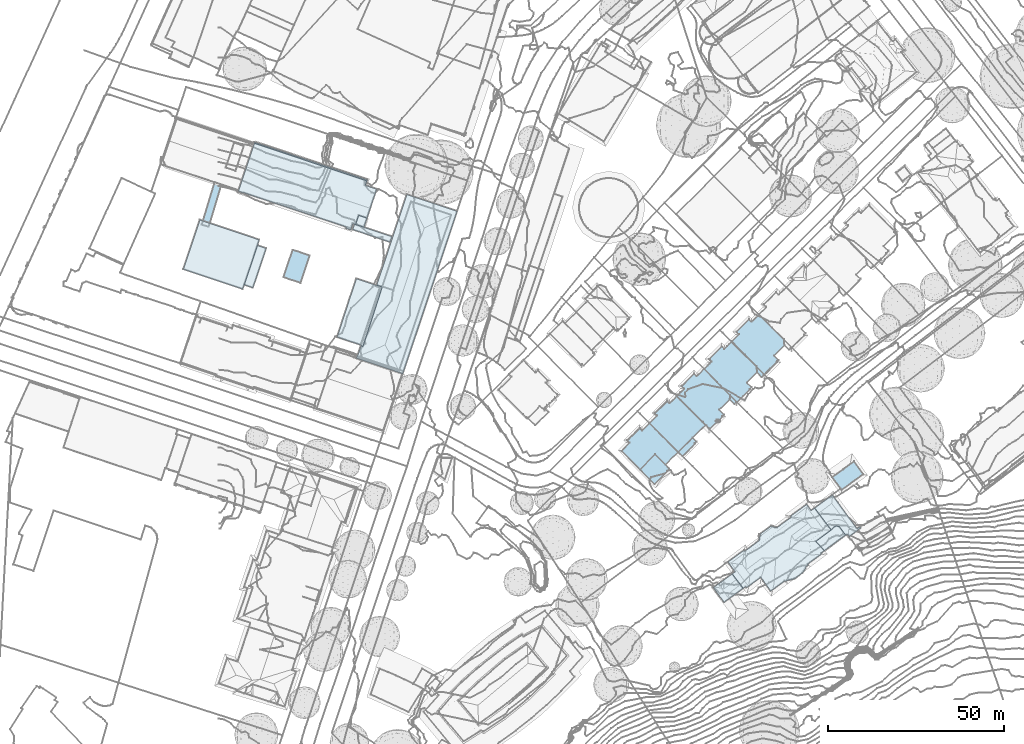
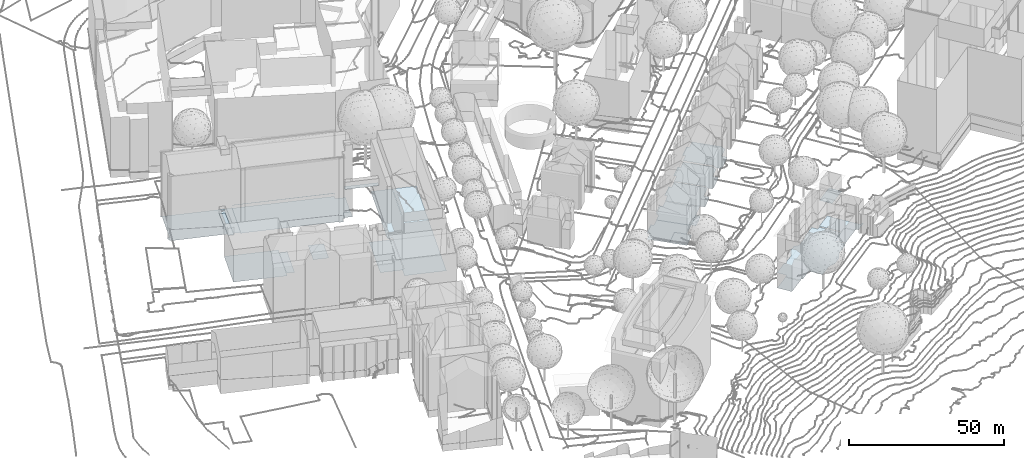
# Not in any storey, part 2 of 494: 12 footings.
"""IFC2X3 model written with IfcOpenShell, lengths in metres."""

from ifc_helpers import new_model, si_unit, frame, origin_with_axes, place, context, subcontext, project, faceted_brep, element, save


model = new_model("IFC2X3")

# Units and contexts
model_context = context("Model", 3, precision=1e-05, world=origin_with_axes())
body_context = subcontext(model_context, "Body", "Model", "MODEL_VIEW")
ifc_project = project(units=[si_unit("AREAUNIT", "SQUARE_METRE"), si_unit("LENGTHUNIT", "METRE")], contexts=[model_context])

# Footings
footing_1_placement = place(None, frame((173.5807320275, 98.186316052, 528.0961), z_axis=(0.0, 0.0, 1.0), x_axis=(1.0, 0.0, 0.0)))
element("IfcFooting", 1, at=footing_1_placement, Name="Floor 0", PredefinedType="STRIP_FOOTING", context=body_context, shape_type="Brep", body=[
    faceted_brep([(2.6099999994, 1.9063000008, 0.0), (8.8049999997, 0.8584000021, -0.0001), (2.5949999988, -3.5537, -0.0001), (4.8889999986, 3.5703000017, 0.0), (6.1530000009, 4.4932000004, 0.0), (5.748999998, -1.373999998, -0.0001), (1.0150000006, 0.7412, 0.0), (0.0, 0.0, 0.0), (2.6530000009, -3.6347000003, -0.0001)], [[[0, 1, 2]], [[3, 4, 1]], [[1, 0, 3]], [[1, 5, 2]], [[0, 2, 6]], [[7, 6, 2]], [[8, 2, 5]]]),
])
footing_2_placement = place(None, frame((160.7467320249, 68.8533160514, 524.6524), z_axis=(0.0, 0.0, 1.0), x_axis=(1.0, 0.0, 0.0)))
element("IfcFooting", 2, at=footing_2_placement, Name="Floor 1", PredefinedType="STRIP_FOOTING", context=body_context, shape_type="Brep", body=[
    faceted_brep([(13.4810000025, 15.2655999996, 0.1969), (13.8940000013, 15.4824000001, 0.1969), (14.825000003, 15.2588, 0.1969), (16.5910000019, 12.8867000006, 0.1969), (12.4710000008, 14.3535000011, 0.1969), (8.1400000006, 11.0918000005, 0.1969), (10.5880000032, 8.4688000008, 0.1969), (-15.1559999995, -4.1854999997, -0.22), (-16.4949999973, -5.1631000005, -0.22), (-20.1969999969, -3.182599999, -0.22), (-17.2149999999, -5.6893999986, -0.22), (-18.2019999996, 0.009800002, -0.22), (-12.5309999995, -2.2675999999, -0.22), (-17.9599999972, -6.2333999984, -0.22), (-18.8389999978, -0.4569999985, -0.22), (-18.432, -0.1581999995, -0.22), (-21.0489999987, -2.0194999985, -0.22), (-15.6519999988, 1.8780000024, -0.22), (-17.981999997, 0.1709000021, -0.22), (-12.0789999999, 8.3399000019, -0.068), (-14.867999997, 2.4521999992, -0.068), (-16.9019999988, 5.2382999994, -0.068), (-12.2789999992, 8.6132999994, -0.068), (-8.0589999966, 11.2774000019, -0.068), (-7.9549999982, 12.2197000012, -0.068), (-7.9149999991, 12.2481000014, -0.068), (-7.8889999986, 12.0234999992, -0.068), (-7.9919999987, 12.3535000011, -0.068), (-7.5029999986, 12.7217000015, -0.068), (-3.6639999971, 15.1104000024, -0.068), (-7.875, 11.8164000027, -0.068), (-8.0029999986, 11.4268000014, -0.068), (-8.0879999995, 11.317400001, -0.068), (-7.8959999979, 11.6797000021, -0.068), (-3.4719999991, 15.0342000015, -0.068), (-7.9389999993, 11.5489000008, -0.068), (-3.3369999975, 15.0117000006, -0.068), (-3.1989999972, 15.0127000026, -0.068), (-2.9029999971, 15.0430000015, -0.068), (-15.6519999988, 1.8780000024, -0.068), (-12.5299999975, -2.2675999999, -0.068), (-11.6019999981, -2.1092999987, -0.068), (-11.8499999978, -1.7705000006, -0.068), (-11.0119999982, -1.6787, -0.068), (-7.5319999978, 0.8632999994, -0.068), (-10.9069999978, -1.6024999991, -0.068), (-6.0219999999, -1.1981999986, -0.068), (-4.1559999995, -2.6512999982, -0.068), (-4.6849999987, -3.0381000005, -0.068), (6.8060000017, 19.9081999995, -0.068), (5.7530000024, 4.5976999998, -0.068), (-0.6710000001, -0.1053999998, -0.068), (-1.8509999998, -0.9677000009, -0.068), (0.0340000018, 0.0234999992, -0.068), (-0.4979999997, -0.3418000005, -0.068), (-7.4729999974, 0.7959000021, -0.068), (8.1400000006, 11.0918000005, -0.068), (1.0109999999, 0.1504000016, -0.068), (0.5250000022, 0.067400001, -0.068), (5.2080000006, 3.4942000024, -0.068), (1.4870000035, 0.2754000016, -0.068), (1.4650000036, 0.2675999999, -0.068), (4.9700000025, 3.0362000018, -0.068), (5.4050000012, 3.9717000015, -0.068), (-4.2929999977, 15.2754000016, -0.068), (-4.5849999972, 15.4717000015, -0.068), (-4.4869999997, 15.5419999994, -0.068), (-4.2719999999, 15.2910000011, -0.068), (-4.2079999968, 15.2050999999, -0.068), (-3.8699999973, 15.2030999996, -0.068), (-3.9909999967, 15.3682000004, -0.068), (-3.8299999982, 15.2324000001, -0.068), (0.9130000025, 18.2558999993, -0.068), (5.5450000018, 21.6367000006, -0.068), (1.1150000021, 17.9785000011, -0.068), (-3.0629999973, 15.0371000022, -0.068), (-2.9339999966, 15.0850000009, -0.068), (5.9300000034, 4.3544999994, -0.068), (1.9539999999, 0.4356000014, -0.068), (4.3800000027, 2.1933999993, -0.068), (2.1630000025, 0.5274000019, -0.068), (4.694000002, 2.6006000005, -0.068), (0.9360000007, 17.8476999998, -0.068), (7.762000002, 20.6064999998, -0.068), (12.4710000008, 14.3535000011, -0.068), (9.6160000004, 7.7530000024, -0.068), (9.7750000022, 7.5351999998, -0.068), (10.5880000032, 8.4688000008, -0.068), (-7.8029999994, 13.1220999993, -0.068), (14.4370000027, 22.1143000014, 0.3329), (10.9910000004, 16.3252000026, 0.3329), (8.9000000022, 19.0967000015, 0.3329), (7.762000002, 20.6064999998, 0.3329), (12.9020000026, 24.2178000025, 0.3329), (12.8330000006, 24.3115000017, 0.3329), (13.8940000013, 15.4824000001, 0.3329), (12.4710000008, 14.3535000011, 0.3329), (13.4810000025, 15.2655999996, 0.3329), (16.813000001, 13.0498000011, 0.3329), (16.5910000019, 12.8867000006, 0.3329), (14.825000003, 15.2588, 0.3329), (19.2700000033, 15.4932000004, 0.3329), (19.5520000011, 15.1084000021, 0.3329), (17.2290000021, 13.0381000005, 0.3329), (20.7070000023, 15.2646999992, 0.3329), (20.9470000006, 14.9453000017, 0.3329), (20.2410000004, 15.0205000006, 0.3329), (19.7880000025, 14.7842000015, 0.3329), (16.9630000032, 12.8438000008, 0.3329), (17.6490000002, 12.4600000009, 0.3329), (17.2780000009, 12.9706999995, 0.3329)], [[[0, 1, 2]], [[2, 3, 4]], [[5, 4, 6]], [[2, 4, 0]], [[3, 6, 4]], [[7, 8, 9]], [[9, 8, 10]], [[7, 11, 12]], [[13, 9, 10]], [[14, 15, 9]], [[9, 16, 14]], [[17, 12, 18]], [[11, 18, 12]], [[15, 11, 7]], [[15, 7, 9]], [[19, 20, 21]], [[22, 19, 21]], [[19, 23, 20]], [[24, 25, 26]], [[27, 28, 25]], [[28, 26, 25]], [[26, 29, 30]], [[31, 23, 32]], [[33, 30, 34]], [[35, 33, 36]], [[35, 23, 31]], [[35, 37, 23]], [[38, 20, 23]], [[39, 20, 40]], [[41, 42, 43]], [[42, 40, 20]], [[42, 20, 44]], [[42, 45, 43]], [[46, 47, 48]], [[44, 45, 42]], [[49, 44, 20]], [[46, 50, 51]], [[52, 47, 46]], [[46, 51, 52]], [[51, 53, 54]], [[55, 56, 46]], [[57, 58, 59]], [[60, 61, 57]], [[60, 57, 62]], [[50, 53, 51]], [[53, 63, 58]], [[56, 55, 44]], [[28, 29, 26]], [[64, 28, 65]], [[64, 65, 66]], [[67, 68, 64]], [[68, 28, 64]], [[28, 69, 29]], [[68, 70, 69]], [[29, 69, 71]], [[68, 69, 28]], [[34, 30, 29]], [[33, 34, 36]], [[72, 73, 74]], [[38, 23, 37]], [[37, 75, 38]], [[35, 36, 37]], [[75, 76, 38]], [[59, 58, 63]], [[77, 63, 50]], [[50, 46, 56]], [[63, 53, 50]], [[57, 59, 62]], [[78, 79, 80]], [[81, 79, 78]], [[60, 81, 78]], [[81, 60, 62]], [[49, 20, 38]], [[74, 49, 82]], [[83, 84, 49]], [[74, 73, 49]], [[44, 49, 56]], [[49, 84, 56]], [[50, 85, 86]], [[56, 87, 85]], [[85, 50, 56]], [[82, 49, 38]], [[28, 88, 65]], [[89, 90, 91]], [[91, 92, 89]], [[89, 92, 93]], [[92, 94, 93]], [[89, 95, 90]], [[96, 90, 97]], [[97, 90, 95]], [[98, 99, 100]], [[98, 100, 101]], [[89, 100, 95]], [[89, 101, 100]], [[102, 103, 101]], [[104, 105, 106]], [[105, 107, 106]], [[98, 103, 108]], [[107, 109, 110]], [[110, 103, 107]], [[107, 105, 109]], [[102, 107, 103]], [[101, 103, 98]]]),
])
footing_3_placement = place(None, frame((-17.4142679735, 188.431416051, 525.0686), z_axis=(0.0, 0.0, 1.0), x_axis=(1.0, 0.0, 0.0)))
element("IfcFooting", 3, at=footing_3_placement, Name="Floor 0", PredefinedType="STRIP_FOOTING", context=body_context, shape_type="Brep", body=[
    faceted_brep([(17.3339999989, -7.0936999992, 8.4302), (11.754999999, -18.5126999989, 8.4302), (15.4070000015, -6.4560000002, 8.4302), (13.6959999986, -19.1014999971, 8.4302), (22.2760000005, -8.4432999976, 0.0), (12.7789999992, -5.5868999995, 0.0), (24.4219999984, -2.0252999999, 0.0), (22.0929999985, -8.9891999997, 0.0), (22.1000000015, -8.6708999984, 0.0), (22.0100000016, -9.2381999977, 0.0), (21.9200000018, -9.2088999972, 0.0), (22.0029999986, -8.9608999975, 0.0), (21.7230000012, 6.2393000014, 0.0), (26.5080000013, 4.2090000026, 0.0), (26.7699999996, 4.9922000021, 0.0), (26.6739999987, 4.7041000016, 0.0), (26.6009999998, 5.0479000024, 0.0), (26.4719999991, 4.6592000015, 0.0), (2.512000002, 5.3057000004, 0.0), (1.3909999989, -1.8182999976, 0.0), (0.8969999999, 0.4776000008, 0.0), (0.3359999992, -1.4696999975, 0.0), (0.125, -0.9461999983, 0.0), (1.2199999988, -1.7616999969, 0.0), (0.0370000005, -0.7274999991, 0.0), (0.0, 0.0, 0.0), (0.6290000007, 0.5665000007, 0.0), (4.5980000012, 11.5391000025, 0.0), (4.1920000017, 11.6749000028, 0.0), (4.438000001, 11.9902999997, 0.0), (4.3370000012, 12.1456000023, 0.0), (4.4739999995, 12.0997000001, 0.0), (0.2430000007, 0.6953999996, 0.0)], [[[0, 1, 2]], [[1, 0, 3]], [[4, 5, 6]], [[4, 7, 8]], [[9, 10, 7]], [[7, 11, 8]], [[5, 4, 8]], [[7, 10, 11]], [[6, 12, 13]], [[14, 15, 16]], [[13, 17, 15]], [[16, 15, 17]], [[13, 12, 17]], [[6, 18, 12]], [[5, 19, 20]], [[21, 22, 23]], [[19, 23, 24]], [[20, 19, 24]], [[25, 26, 20]], [[20, 24, 25]], [[23, 22, 24]], [[20, 18, 5]], [[27, 28, 29]], [[12, 18, 27]], [[29, 30, 31]], [[27, 29, 12]], [[26, 25, 32]], [[30, 29, 28]], [[5, 18, 6]]]),
])
footing_4_placement = place(None, frame((-10.9342679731, 157.2918160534, 524.6136), z_axis=(0.0, 0.0, 1.0), x_axis=(1.0, 0.0, 0.0)))
element("IfcFooting", 4, at=footing_4_placement, Name="Floor 0", PredefinedType="STRIP_FOOTING", context=body_context, shape_type="Brep", body=[
    faceted_brep([(19.7899999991, -5.2871000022, 0.176), (21.2219999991, 6.7558999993, 0.176), (23.5460000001, 5.9354999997, 0.176), (17.2980000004, -4.4092000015, 0.176), (21.0749999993, 6.8594000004, 0.176), (21.2390000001, 6.8037, 0.176), (4.6970000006, 14.0351999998, 0.0001), (17.2980000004, -4.4092000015, 0.0), (0.0, 0.0, 0.0), (16.8500000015, -5.6377000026, 0.0), (21.5859999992, 8.3838, 0.0)], [[[0, 1, 2]], [[0, 3, 1]], [[4, 5, 1]], [[1, 3, 4]], [[6, 7, 8]], [[7, 9, 8]], [[6, 10, 7]]]),
])
footing_5_placement = place(None, frame((4.678732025, 179.4422160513, 524.9256), z_axis=(0.0, 0.0, 1.0), x_axis=(1.0, 0.0, 0.0)))
element("IfcFooting", 5, at=footing_5_placement, Name="Floor 0", PredefinedType="STRIP_FOOTING", context=body_context, shape_type="Brep", body=[
    faceted_brep([(43.1650000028, -14.4452999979, 12.5228), (35.7380000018, -10.1992000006, 12.5228), (43.6950000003, -12.8622999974, 12.5228), (32.5140000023, -10.8808999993, 12.5228), (33.0109999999, -9.3974999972, 12.5228), (33.0440000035, -9.2987999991, 12.5228), (36.6060000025, -7.6074000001, 0.238), (35.7380000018, -10.1992000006, 0.238), (36.5780000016, -7.5986000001, 0.238), (33.3580000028, -9.4032999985, 0.238), (34.2250000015, -6.811499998, 0.238), (36.5380000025, 3.0, 1.0749), (36.7360000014, 3.3368999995, 1.0749), (36.2010000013, 1.7187000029, 1.0749), (36.6740000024, 1.5516999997, 1.0749), (36.1120000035, 1.7265000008, 1.0749), (35.3289999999, 3.7930000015, 1.0749), (21.8880000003, 8.2607000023, 1.0749), (4.6790000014, 13.9805000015, 1.0749), (11.4680000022, 11.7236000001, 1.0749), (4.5810000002, 13.6933000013, 1.0749), (2.3289999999, 6.9638999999, 0.0), (1.3570000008, -0.3407999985, 0.0), (0.1830000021, 0.5459000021, 0.0), (22.4830000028, -7.3984999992, 0.0), (34.2250000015, -6.811499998, 0.0), (0.0, 0.0, 0.0), (1.3440000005, -0.3779000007, 0.0), (1.325000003, -0.4375, 0.0), (30.7270000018, -10.1532999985, -0.007), (32.5310000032, -9.2372999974, -0.007), (31.9560000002, -10.9550999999, -0.007), (30.6080000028, -10.5058999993, -0.007), (4.5810000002, 13.6933000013, 0.0), (36.1120000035, 1.7265000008, 0.0), (36.5380000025, 3.0, 0.0), (37.512000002, -4.8085999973, 0.0), (39.3370000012, 0.6474000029, 0.0), (36.5780000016, -7.5986000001, 0.0), (33.0440000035, -9.2987999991, 0.0), (33.0109999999, -9.3974999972, -0.007), (33.3580000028, -9.4032999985, 0.0)], [[[0, 1, 2]], [[0, 3, 1]], [[1, 4, 5]], [[1, 3, 4]], [[6, 7, 8]], [[9, 10, 8]], [[8, 7, 9]], [[11, 12, 13]], [[14, 15, 13]], [[11, 13, 15]], [[12, 11, 16]], [[16, 11, 17]], [[18, 19, 20]], [[17, 20, 19]], [[17, 11, 20]], [[21, 22, 23]], [[24, 21, 25]], [[22, 21, 24]], [[22, 26, 23]], [[27, 28, 26]], [[26, 22, 27]], [[29, 24, 30]], [[29, 31, 32]], [[21, 33, 34]], [[34, 33, 35]], [[25, 21, 36]], [[34, 37, 36]], [[36, 38, 25]], [[30, 24, 25]], [[31, 29, 30]], [[30, 39, 40]], [[41, 39, 25]], [[30, 25, 39]], [[36, 21, 34]]]),
])
footing_6_placement = place(None, frame((32.7697320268, 138.0096160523, 524.7246), z_axis=(0.0, 0.0, 1.0), x_axis=(1.0, 0.0, 0.0)))
element("IfcFooting", 6, at=footing_6_placement, Name="Floor 0", PredefinedType="STRIP_FOOTING", context=body_context, shape_type="Brep", body=[
    faceted_brep([(18.5610000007, -10.371100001, 0.5129), (7.3539999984, -2.6719000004, 0.5129), (12.8390000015, 14.2743999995, 0.5129), (34.1330000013, 35.7822000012, 0.5129), (19.8390000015, 40.557599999, 0.5129), (11.2410000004, 14.7910000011, 0.5129), (5.9189999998, -5.0273999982, 0.5129), (6.7589999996, -2.4785000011, 0.5129), (18.6719999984, -10.4081999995, 0.5129), (18.8999999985, -9.7276000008, 0.5129), (5.4809999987, -5.9932000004, 0.5129), (5.8159999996, -4.9932000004, 0.5129), (12.8390000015, 14.2743999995, 0.0), (11.2149999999, 14.7138000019, 0.0), (11.2410000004, 14.7910000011, 0.0), (0.0, 0.0, 0.0), (5.4600000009, 16.6367000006, 0.0), (6.8339999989, -2.2529999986, 0.0), (7.3539999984, -2.6719000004, 0.0), (6.7589999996, -2.4785000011, 0.0)], [[[0, 1, 2]], [[2, 3, 0]], [[2, 4, 3]], [[5, 4, 2]], [[6, 7, 1]], [[8, 0, 9]], [[1, 0, 10]], [[6, 10, 11]], [[10, 6, 1]], [[3, 9, 0]], [[12, 13, 14]], [[13, 15, 16]], [[17, 13, 12]], [[18, 19, 17]], [[17, 12, 18]], [[15, 13, 17]]]),
])
footing_7_placement = place(None, frame((17.559732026, 155.003716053, 524.8416), z_axis=(0.0, 0.0, 1.0), x_axis=(1.0, 0.0, 0.0)))
element("IfcFooting", 7, at=footing_7_placement, Name="Floor 0", PredefinedType="STRIP_FOOTING", context=body_context, shape_type="Brep", body=[
    faceted_brep([(7.4270000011, 6.1679999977, 0.0), (0.0, 0.0, 0.0), (2.5899999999, 7.7705000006, 0.0), (4.8289999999, -1.629900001, 0.0)], [[[0, 1, 2]], [[1, 0, 3]]]),
])
footing_8_placement = place(None, frame((121.6327320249, 113.5477160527, 529.229), z_axis=(0.0, 0.0, 1.0), x_axis=(1.0, 0.0, 0.0)))
element("IfcFooting", 8, at=footing_8_placement, Name="Floor 0", PredefinedType="STRIP_FOOTING", context=body_context, shape_type="Brep", body=[
    faceted_brep([(11.4760000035, 3.9510999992, 0.0), (2.1090000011, 2.0947000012, 0.0), (5.6550000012, 5.6162, 0.0), (7.745000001, 7.6904000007, 0.0), (5.0610000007, 6.2137999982, 0.0), (15.943, -0.5274000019, 0.0), (8.1550000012, -8.2149000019, 0.0), (3.699000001, -3.7265999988, 0.0), (0.0, 0.0, 0.0), (1.5050000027, 2.7030999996, 0.0), (4.943, 6.3330000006, 0.581), (5.0610000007, 6.2137999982, 0.581), (1.5050000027, 2.7030999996, 0.581), (1.4030000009, 2.8055999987, 0.581), (1.5170000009, 2.9199000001, 0.581), (9.3650000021, -9.4365999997, 0.11), (8.1550000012, -8.2149000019, 0.11), (11.1170000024, -7.697300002, 0.11), (12.8720000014, -5.7422000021, 0.11), (12.9780000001, -5.8487000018, 0.11), (12.2860000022, -4.1367999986, 0.11), (13.376000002, -5.2413000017, 0.11)], [[[0, 1, 2]], [[3, 0, 2]], [[2, 1, 4]], [[5, 6, 0]], [[7, 1, 0]], [[7, 8, 1]], [[9, 4, 1]], [[0, 6, 7]], [[10, 11, 12]], [[12, 13, 14]], [[14, 10, 12]], [[15, 16, 17]], [[17, 18, 19]], [[20, 18, 17]], [[17, 16, 20]], [[21, 18, 20]]]),
])
footing_9_placement = place(None, frame((145.0367320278, 136.7889160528, 530.3359), z_axis=(0.0, 0.0, 1.0), x_axis=(1.0, 0.0, 0.0)))
element("IfcFooting", 9, at=footing_9_placement, Name="Floor 0", PredefinedType="STRIP_FOOTING", context=body_context, shape_type="Brep", body=[
    faceted_brep([(7.7559999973, 7.7080000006, 0.0), (11.4719999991, 3.942400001, 0.0), (7.6840000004, 7.6356999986, 0.0), (5.5709999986, 5.5361000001, 0.0), (3.6909999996, -3.7382999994, 0.0), (12.0219999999, -4.0478999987, 0.0), (2.0229999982, 2.0097000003, 0.0), (1.3139999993, 2.7236000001, 0.0), (4.8559999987, 6.2558000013, 0.0), (0.0, 0.0, 0.0), (14.7809999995, 0.5907999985, 0.0), (14.8420000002, -0.4834000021, 0.0), (14.9709999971, -1.1367999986, 0.0), (7.0009999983, -7.0918000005, 0.0), (12.7619999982, -5.8594000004, 0.0), (9.2779999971, -9.5175999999, 0.0), (12.7569999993, -5.8506000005, 0.0), (12.8619999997, -5.9571000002, 0.0), (13.2839999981, -5.3251999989, 0.0), (8.9679999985, -9.6143000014, 0.0), (7.1789999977, -8.8291000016, 0.0), (8.4560000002, -10.1220999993, 0.0), (9.0729999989, -9.7197999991, 0.0)], [[[0, 1, 2]], [[2, 1, 3]], [[4, 3, 5]], [[5, 3, 1]], [[6, 7, 8]], [[3, 6, 8]], [[9, 6, 4]], [[4, 6, 3]], [[10, 11, 1]], [[12, 5, 11]], [[13, 4, 5]], [[14, 15, 16]], [[15, 14, 17]], [[16, 5, 18]], [[16, 13, 5]], [[19, 20, 13]], [[13, 15, 19]], [[19, 21, 20]], [[19, 15, 22]], [[16, 15, 13]], [[1, 11, 5]]]),
])
footing_10_placement = place(None, frame((129.3807320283, 121.2410160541, 529.389), z_axis=(0.0, 0.0, 1.0), x_axis=(1.0, 0.0, 0.0)))
element("IfcFooting", 10, at=footing_10_placement, Name="Floor 0", PredefinedType="STRIP_FOOTING", context=body_context, shape_type="Brep", body=[
    faceted_brep([(1.4689999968, 2.8847999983, 0.0), (4.9139999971, 6.2929999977, 0.0), (5.6769999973, 5.6347999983, 0.0), (4.9689999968, 6.3476999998, 0.0), (11.436999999, 4.0, 0.0), (6.1789999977, 6.1338, 0.0), (7.7709999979, 7.7148999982, 0.0), (2.129999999, 2.1093999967, 0.0), (12.0719999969, -3.9072000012, 0.0), (2.0779999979, 2.1630999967, 0.0), (1.4139999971, 2.8310999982, 0.0), (3.6529999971, -3.6670000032, 0.0), (1.0649999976, 1.0546999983, 0.0), (1.1019999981, -1.1103000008, 0.0), (0.0, 0.0, 0.0), (15.0709999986, -0.9463, 0.0), (13.3809999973, -5.2334000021, 0.0), (12.8719999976, -5.7383000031, 0.0), (12.9780000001, -5.8447000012, 0.0), (10.9439999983, -7.8652000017, 0.0), (7.368999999, -7.3916000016, 0.0), (7.4229999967, -7.4453000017, 0.0), (5.2979999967, -5.3164000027, 0.0), (9.3859999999, -9.4131000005, 0.0), (9.1939999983, -9.2207000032, 0.0), (8.4499999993, -8.4756000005, 0.0), (15.1030000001, 0.2861999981, 0.0)], [[[0, 1, 2]], [[3, 2, 1]], [[4, 5, 6]], [[5, 4, 2]], [[7, 0, 2]], [[7, 2, 8]], [[9, 10, 0]], [[7, 9, 0]], [[11, 12, 7]], [[13, 14, 12]], [[12, 11, 13]], [[2, 4, 8]], [[8, 4, 15]], [[16, 17, 8]], [[11, 7, 8]], [[17, 18, 19]], [[8, 17, 19]], [[19, 20, 8]], [[20, 19, 21]], [[22, 8, 20]], [[11, 8, 22]], [[23, 24, 19]], [[25, 21, 19]], [[19, 24, 25]], [[26, 15, 4]]]),
])
footing_11_placement = place(None, frame((137.1517320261, 128.9559160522, 529.729), z_axis=(0.0, 0.0, 1.0), x_axis=(1.0, 0.0, 0.0)))
element("IfcFooting", 11, at=footing_11_placement, Name="Floor 0", PredefinedType="STRIP_FOOTING", context=body_context, shape_type="Brep", body=[
    faceted_brep([(1.4270000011, 2.8348999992, 0.0), (4.9609999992, 6.3583999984, 0.0), (5.6860000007, 5.6484000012, 0.0), (11.5760000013, 4.0947000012, 0.0), (6.4840000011, 6.4404000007, 0.0), (12.1390000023, -3.8847999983, 0.0), (7.7970000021, 7.746100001, 0.0), (2.1350000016, 2.1220000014, 0.0), (9.3619999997, -9.4327000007, 0.0), (3.6660000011, -3.7148999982, 0.0), (0.0, 0.0, 0.0), (0.9400000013, 0.9345000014, 0.0), (7.8850000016, 7.8330000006, 0.0), (14.8859999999, 0.7412, 0.0), (15.0639999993, -0.996100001, 0.0), (12.9030000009, -5.7725000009, 0.0), (12.868999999, -5.7382999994, 0.0), (12.9750000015, -5.8438000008, 0.0), (13.4239999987, -5.1875, 0.0), (7.3320000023, -7.4287, 0.0), (9.0729999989, -9.5078000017, 0.0), (8.5989999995, -9.9794999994, 0.0), (7.3000000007, -8.6611999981, 0.0), (9.1790000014, -9.6143000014, 0.0)], [[[0, 1, 2]], [[3, 2, 4]], [[2, 5, 0]], [[4, 6, 3]], [[0, 5, 7]], [[7, 8, 9]], [[9, 10, 11]], [[11, 7, 9]], [[12, 3, 6]], [[13, 14, 3]], [[2, 14, 5]], [[7, 5, 8]], [[15, 8, 16]], [[15, 17, 8]], [[8, 5, 16]], [[16, 5, 18]], [[19, 8, 20]], [[20, 21, 22]], [[22, 19, 20]], [[8, 23, 20]], [[8, 19, 9]], [[3, 14, 2]]]),
])
footing_12_placement = place(None, frame((113.678732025, 105.6463160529, 529.229), z_axis=(0.0, 0.0, 1.0), x_axis=(1.0, 0.0, 0.0)))
element("IfcFooting", 12, at=footing_12_placement, Name="Floor 0", PredefinedType="STRIP_FOOTING", context=body_context, shape_type="Brep", body=[
    faceted_brep([(5.0930000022, 6.4853000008, 0.265), (5.1290000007, 6.5214999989, 0.265), (5.2250000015, 6.4248000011, 0.265), (1.7100000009, 3.120099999, 0.265), (1.6720000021, 2.9160000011, 0.265), (1.5890000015, 2.998999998, 0.265), (2.2990000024, 2.2841999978, 0.0), (5.8420000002, 5.8037, 0.0), (11.6530000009, 4.1748000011, 0.0), (16.1090000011, -0.313500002, 0.0), (9.5590000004, -0.9844000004, 0.0), (7.9539999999, 7.9013999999, 0.0), (1.6720000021, 2.9160000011, 0.0), (5.2250000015, 6.4248000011, 0.0), (12.4560000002, -3.9199000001, 0.0), (5.2260000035, -5.2626999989, 0.0), (0.0, 0.0, 0.0), (5.2250000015, -5.2637000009, -0.047), (11.200000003, -7.6123000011, -0.047), (5.3280000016, -5.3672000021, -0.047), (9.3660000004, -9.4345999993, -0.047), (9.5590000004, -0.9844000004, -0.047), (13.5700000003, -5.0478999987, -0.047), (13.064000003, -5.5507999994, -0.047), (13.1690000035, -5.6563000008, -0.047)], [[[0, 1, 2]], [[2, 3, 0]], [[4, 5, 3]], [[3, 2, 4]], [[6, 7, 8]], [[8, 9, 10]], [[7, 11, 8]], [[12, 13, 7]], [[10, 9, 14]], [[15, 6, 10]], [[7, 6, 12]], [[6, 15, 16]], [[8, 10, 6]], [[17, 18, 19]], [[20, 19, 18]], [[21, 18, 17]], [[22, 23, 21]], [[24, 18, 23]], [[23, 18, 21]]]),
])

save(model, "model.ifc")
